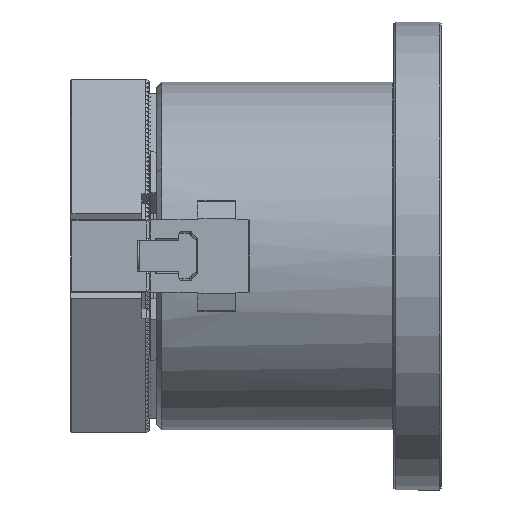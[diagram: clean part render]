
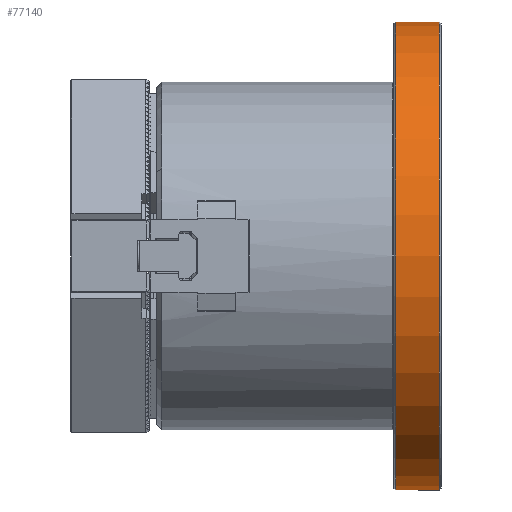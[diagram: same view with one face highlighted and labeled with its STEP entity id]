
A CAD part, left-side view. The second image highlights one B-rep face of the part: STEP entity #77140.
In plain terms, the highlighted cylindrical face has radius 74 mm (diameter 148 mm), a partial arc.
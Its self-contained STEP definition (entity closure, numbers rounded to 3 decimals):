
#724 = CARTESIAN_POINT ( 'NONE',  ( 0., -14.4, -74. ) ) ;
#1149 = ORIENTED_EDGE ( 'NONE', *, *, #25384, .T. ) ;
#1178 = DIRECTION ( 'NONE',  ( 0., 1., 0. ) ) ;
#2131 = ORIENTED_EDGE ( 'NONE', *, *, #8913, .F. ) ;
#8101 = EDGE_CURVE ( 'NONE', #49442, #18839, #43370, .T. ) ;
#8290 = AXIS2_PLACEMENT_3D ( 'NONE', #13435, #1178, #74974 ) ;
#8913 = EDGE_CURVE ( 'NONE', #19734, #49442, #57958, .T. ) ;
#9036 = DIRECTION ( 'NONE',  ( 0., 0., -1. ) ) ;
#9580 = CARTESIAN_POINT ( 'NONE',  ( 0., -14.4, 0. ) ) ;
#13435 = CARTESIAN_POINT ( 'NONE',  ( 0., -0.6, 0. ) ) ;
#17348 = DIRECTION ( 'NONE',  ( 0., 1., 0. ) ) ;
#18673 = EDGE_LOOP ( 'NONE', ( #1149, #40247, #44180, #2131 ) ) ;
#18839 = VERTEX_POINT ( 'NONE', #35110 ) ;
#19734 = VERTEX_POINT ( 'NONE', #724 ) ;
#23781 = CARTESIAN_POINT ( 'NONE',  ( 0., 25.154, 0. ) ) ;
#24182 = AXIS2_PLACEMENT_3D ( 'NONE', #23781, #42611, #66397 ) ;
#25384 = EDGE_CURVE ( 'NONE', #19734, #28720, #43861, .T. ) ;
#27639 = DIRECTION ( 'NONE',  ( 0., 1., 0. ) ) ;
#28285 = VECTOR ( 'NONE', #52065, 1000. ) ;
#28720 = VERTEX_POINT ( 'NONE', #52940 ) ;
#35110 = CARTESIAN_POINT ( 'NONE',  ( 0., -0.6, 74. ) ) ;
#37555 = AXIS2_PLACEMENT_3D ( 'NONE', #9580, #27639, #9036 ) ;
#38389 = FACE_OUTER_BOUND ( 'NONE', #18673, .T. ) ;
#39809 = CARTESIAN_POINT ( 'NONE',  ( 0., -0.6, -74. ) ) ;
#40247 = ORIENTED_EDGE ( 'NONE', *, *, #53789, .T. ) ;
#41721 = CARTESIAN_POINT ( 'NONE',  ( 0., 25.154, -74. ) ) ;
#42032 = LINE ( 'NONE', #70878, #28285 ) ;
#42611 = DIRECTION ( 'NONE',  ( 0., 1., 0. ) ) ;
#43370 = CIRCLE ( 'NONE', #8290, 74. ) ;
#43861 = CIRCLE ( 'NONE', #37555, 74. ) ;
#44180 = ORIENTED_EDGE ( 'NONE', *, *, #8101, .F. ) ;
#47220 = VECTOR ( 'NONE', #17348, 1000. ) ;
#49442 = VERTEX_POINT ( 'NONE', #39809 ) ;
#52065 = DIRECTION ( 'NONE',  ( 0., 1., 0. ) ) ;
#52940 = CARTESIAN_POINT ( 'NONE',  ( 0., -14.4, 74. ) ) ;
#53789 = EDGE_CURVE ( 'NONE', #28720, #18839, #42032, .T. ) ;
#57958 = LINE ( 'NONE', #41721, #47220 ) ;
#64826 = CYLINDRICAL_SURFACE ( 'NONE', #24182, 74. ) ;
#66397 = DIRECTION ( 'NONE',  ( 0., 0., -1. ) ) ;
#70878 = CARTESIAN_POINT ( 'NONE',  ( 0., 25.154, 74. ) ) ;
#74974 = DIRECTION ( 'NONE',  ( 0., 0., -1. ) ) ;
#77140 = ADVANCED_FACE ( 'NONE', ( #38389 ), #64826, .T. ) ;
